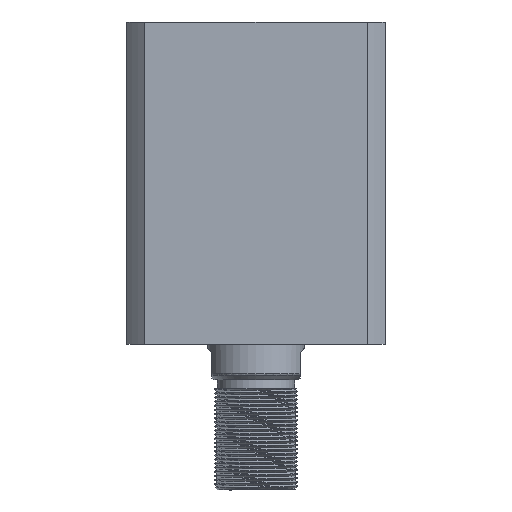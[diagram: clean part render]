
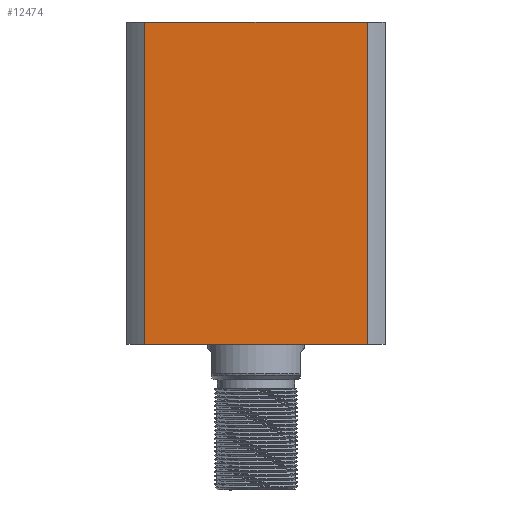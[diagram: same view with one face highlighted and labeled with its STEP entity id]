
A CAD part, front view. The second image highlights one B-rep face of the part: STEP entity #12474.
In plain terms, the highlighted planar face has unit normal (0, -1, 0) as drawn and (0, 1, 0) by its records, which use the part's own axes.
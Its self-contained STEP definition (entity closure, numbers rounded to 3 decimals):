
#114 = EDGE_CURVE ( 'NONE', #16293, #7504, #6887, .T. ) ;
#1237 = FACE_OUTER_BOUND ( 'NONE', #17039, .T. ) ;
#2415 = DIRECTION ( 'NONE',  ( 0., -1., 0. ) ) ;
#3350 = CARTESIAN_POINT ( 'NONE',  ( -40.435, 47., -5883. ) ) ;
#3867 = EDGE_CURVE ( 'NONE', #13434, #16293, #4479, .T. ) ;
#4479 = LINE ( 'NONE', #6567, #12662 ) ;
#5253 = DIRECTION ( 'NONE',  ( 0., 0., 1. ) ) ;
#6178 = AXIS2_PLACEMENT_3D ( 'NONE', #17934, #2415, #14593 ) ;
#6567 = CARTESIAN_POINT ( 'NONE',  ( -47., 47., 117. ) ) ;
#6716 = DIRECTION ( 'NONE',  ( 0., 0., -1. ) ) ;
#6887 = LINE ( 'NONE', #3350, #20733 ) ;
#7504 = VERTEX_POINT ( 'NONE', #20252 ) ;
#7650 = VECTOR ( 'NONE', #5253, 1000. ) ;
#7830 = CARTESIAN_POINT ( 'NONE',  ( -40.435, 47., 117. ) ) ;
#7988 = CARTESIAN_POINT ( 'NONE',  ( 40.435, 47., 0. ) ) ;
#8082 = ORIENTED_EDGE ( 'NONE', *, *, #3867, .F. ) ;
#8678 = DIRECTION ( 'NONE',  ( -1., 0., 0. ) ) ;
#9130 = VERTEX_POINT ( 'NONE', #7988 ) ;
#11180 = CARTESIAN_POINT ( 'NONE',  ( -47., 47., 0. ) ) ;
#12474 = ADVANCED_FACE ( 'NONE', ( #1237 ), #12834, .F. ) ;
#12662 = VECTOR ( 'NONE', #8678, 1000. ) ;
#12834 = PLANE ( 'NONE',  #6178 ) ;
#13434 = VERTEX_POINT ( 'NONE', #19723 ) ;
#13896 = CARTESIAN_POINT ( 'NONE',  ( 40.435, 47., -5883. ) ) ;
#14593 = DIRECTION ( 'NONE',  ( 0., 0., -1. ) ) ;
#16293 = VERTEX_POINT ( 'NONE', #7830 ) ;
#16918 = LINE ( 'NONE', #13896, #7650 ) ;
#17039 = EDGE_LOOP ( 'NONE', ( #19378, #18314, #21114, #8082 ) ) ;
#17427 = LINE ( 'NONE', #11180, #22003 ) ;
#17644 = EDGE_CURVE ( 'NONE', #9130, #13434, #16918, .T. ) ;
#17934 = CARTESIAN_POINT ( 'NONE',  ( -47., 47., 117. ) ) ;
#18314 = ORIENTED_EDGE ( 'NONE', *, *, #19069, .T. ) ;
#19069 = EDGE_CURVE ( 'NONE', #9130, #7504, #17427, .T. ) ;
#19378 = ORIENTED_EDGE ( 'NONE', *, *, #17644, .F. ) ;
#19723 = CARTESIAN_POINT ( 'NONE',  ( 40.435, 47., 117. ) ) ;
#20252 = CARTESIAN_POINT ( 'NONE',  ( -40.435, 47., 0. ) ) ;
#20733 = VECTOR ( 'NONE', #6716, 1000. ) ;
#21114 = ORIENTED_EDGE ( 'NONE', *, *, #114, .F. ) ;
#21502 = DIRECTION ( 'NONE',  ( -1., 0., 0. ) ) ;
#22003 = VECTOR ( 'NONE', #21502, 1000. ) ;
